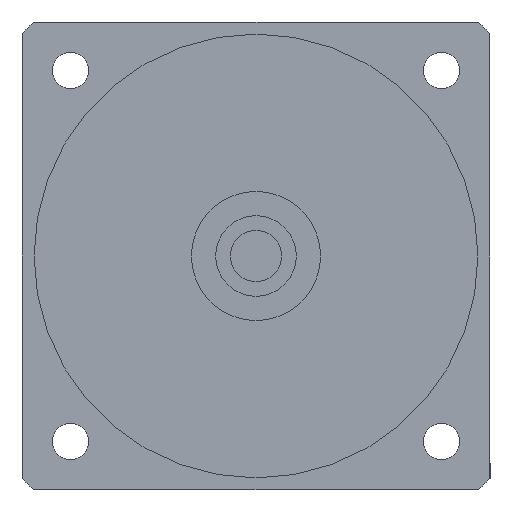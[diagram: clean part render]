
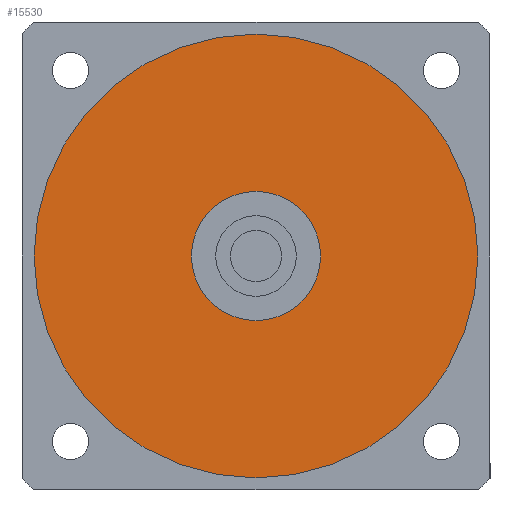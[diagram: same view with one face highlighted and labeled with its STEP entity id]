
A CAD part, left-side view. The second image highlights one B-rep face of the part: STEP entity #15530.
In plain terms, the highlighted planar face has unit normal (-1, 0, 0) as drawn and (0, 0, -1) by its records, which use the part's own axes.
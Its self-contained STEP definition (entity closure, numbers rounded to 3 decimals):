
#15100=CARTESIAN_POINT('',(0.,0.,
-88.5));
#15110=DIRECTION('',(0.,0.,1.));
#15120=DIRECTION('',(-1.,0.,0.));
#15130=AXIS2_PLACEMENT_3D('',#15100,#15110,#15120);
#15140=PLANE('',#15130);
#15150=CARTESIAN_POINT('',(0.,0.,
-88.5));
#15160=DIRECTION('',(0.,0.,1.));
#15170=DIRECTION('',(0.,-1.,0.));
#15180=AXIS2_PLACEMENT_3D('',#15150,#15160,#15170);
#15190=CIRCLE('',#15180,55.);
#15200=CARTESIAN_POINT('',(0.,-55.,-88.5));
#15210=VERTEX_POINT('',#15200);
#15220=CARTESIAN_POINT('',(55.,0.,-88.5));
#15230=VERTEX_POINT('',#15220);
#15240=EDGE_CURVE('',#15210,#15230,#15190,.T.);
#15250=ORIENTED_EDGE('',*,*,#15240,.F.);
#15260=CARTESIAN_POINT('',(-55.,0.,-88.5));
#15270=VERTEX_POINT('',#15260);
#15280=EDGE_CURVE('',#15230,#15270,#15190,.T.);
#15290=ORIENTED_EDGE('',*,*,#15280,.F.);
#15300=EDGE_CURVE('',#15270,#15210,#15190,.T.);
#15310=ORIENTED_EDGE('',*,*,#15300,.F.);
#15320=EDGE_LOOP('',(#15310,#15290,#15250));
#15330=FACE_OUTER_BOUND('',#15320,.T.);
#15340=CARTESIAN_POINT('',(0.,0.,
-88.5));
#15350=DIRECTION('',(0.,0.,1.));
#15360=DIRECTION('',(0.,-1.,0.));
#15370=AXIS2_PLACEMENT_3D('',#15340,#15350,#15360);
#15380=CIRCLE('',#15370,16.);
#15390=CARTESIAN_POINT('',(16.,0.,-88.5));
#15400=VERTEX_POINT('',#15390);
#15410=CARTESIAN_POINT('',(-16.,0.,-88.5));
#15420=VERTEX_POINT('',#15410);
#15430=EDGE_CURVE('',#15400,#15420,#15380,.T.);
#15440=ORIENTED_EDGE('',*,*,#15430,.T.);
#15450=CARTESIAN_POINT('',(0.,-16.,-88.5));
#15460=VERTEX_POINT('',#15450);
#15470=EDGE_CURVE('',#15460,#15400,#15380,.T.);
#15480=ORIENTED_EDGE('',*,*,#15470,.T.);
#15490=EDGE_CURVE('',#15420,#15460,#15380,.T.);
#15500=ORIENTED_EDGE('',*,*,#15490,.T.);
#15510=EDGE_LOOP('',(#15500,#15480,#15440));
#15520=FACE_BOUND('',#15510,.T.);
#15530=ADVANCED_FACE('',(#15330,#15520),#15140,.F.);
